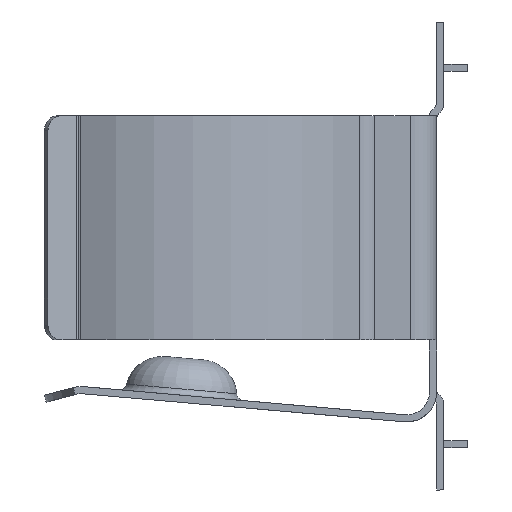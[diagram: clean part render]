
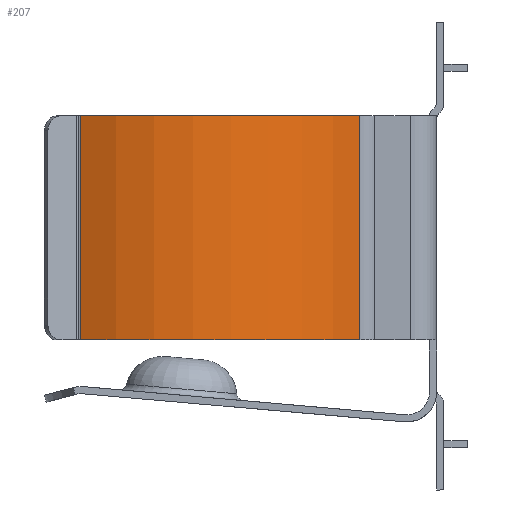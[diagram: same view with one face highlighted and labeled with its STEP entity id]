
A CAD part, left-side view. The second image highlights one B-rep face of the part: STEP entity #207.
In plain terms, the highlighted cylindrical face has radius 9.555 mm (diameter 19.11 mm), a partial arc.
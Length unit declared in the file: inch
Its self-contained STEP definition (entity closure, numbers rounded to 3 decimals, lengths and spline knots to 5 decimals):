
#67 = EDGE_LOOP ( 'NONE', ( #430, #1316, #3238, #1312 ) ) ;
#89 = VECTOR ( 'NONE', #398, 39.37008 ) ;
#111 = CYLINDRICAL_SURFACE ( 'NONE', #2360, 0.37617 ) ;
#169 = CARTESIAN_POINT ( 'NONE',  ( -0.231, 0.12881, 0.1875 ) ) ;
#207 = ADVANCED_FACE ( 'NONE', ( #629 ), #111, .T. ) ;
#367 = CIRCLE ( 'NONE', #1737, 0.37617 ) ;
#398 = DIRECTION ( 'NONE',  ( 0., 0., 1. ) ) ;
#430 = ORIENTED_EDGE ( 'NONE', *, *, #1599, .F. ) ;
#431 = DIRECTION ( 'NONE',  ( 1., 0., 0. ) ) ;
#449 = CARTESIAN_POINT ( 'NONE',  ( 0., 0.4257, 0.1875 ) ) ;
#555 = AXIS2_PLACEMENT_3D ( 'NONE', #996, #1506, #2854 ) ;
#629 = FACE_OUTER_BOUND ( 'NONE', #67, .T. ) ;
#996 = CARTESIAN_POINT ( 'NONE',  ( 0., 0.4257, -0.1875 ) ) ;
#1238 = VECTOR ( 'NONE', #1481, 39.37008 ) ;
#1302 = VERTEX_POINT ( 'NONE', #2239 ) ;
#1312 = ORIENTED_EDGE ( 'NONE', *, *, #1879, .T. ) ;
#1316 = ORIENTED_EDGE ( 'NONE', *, *, #2223, .F. ) ;
#1481 = DIRECTION ( 'NONE',  ( 0., 0., 1. ) ) ;
#1484 = VERTEX_POINT ( 'NONE', #2055 ) ;
#1487 = CARTESIAN_POINT ( 'NONE',  ( 0., 0.4257, -0.1875 ) ) ;
#1506 = DIRECTION ( 'NONE',  ( 0., 0., 1. ) ) ;
#1599 = EDGE_CURVE ( 'NONE', #1302, #3174, #367, .T. ) ;
#1737 = AXIS2_PLACEMENT_3D ( 'NONE', #449, #2925, #3476 ) ;
#1750 = CARTESIAN_POINT ( 'NONE',  ( -0.231, 0.12881, -0.1875 ) ) ;
#1784 = LINE ( 'NONE', #1750, #1238 ) ;
#1879 = EDGE_CURVE ( 'NONE', #2742, #3174, #1784, .T. ) ;
#2055 = CARTESIAN_POINT ( 'NONE',  ( -0.33545, 0.59594, -0.1875 ) ) ;
#2223 = EDGE_CURVE ( 'NONE', #1484, #1302, #3083, .T. ) ;
#2239 = CARTESIAN_POINT ( 'NONE',  ( -0.33545, 0.59594, 0.1875 ) ) ;
#2360 = AXIS2_PLACEMENT_3D ( 'NONE', #1487, #3368, #431 ) ;
#2383 = CIRCLE ( 'NONE', #555, 0.37617 ) ;
#2742 = VERTEX_POINT ( 'NONE', #3430 ) ;
#2854 = DIRECTION ( 'NONE',  ( -1., 0., 0. ) ) ;
#2925 = DIRECTION ( 'NONE',  ( 0., 0., 1. ) ) ;
#3083 = LINE ( 'NONE', #3112, #89 ) ;
#3112 = CARTESIAN_POINT ( 'NONE',  ( -0.33545, 0.59594, -0.1875 ) ) ;
#3144 = EDGE_CURVE ( 'NONE', #1484, #2742, #2383, .T. ) ;
#3174 = VERTEX_POINT ( 'NONE', #169 ) ;
#3238 = ORIENTED_EDGE ( 'NONE', *, *, #3144, .T. ) ;
#3368 = DIRECTION ( 'NONE',  ( 0., 0., 1. ) ) ;
#3430 = CARTESIAN_POINT ( 'NONE',  ( -0.231, 0.12881, -0.1875 ) ) ;
#3476 = DIRECTION ( 'NONE',  ( -1., 0., 0. ) ) ;
